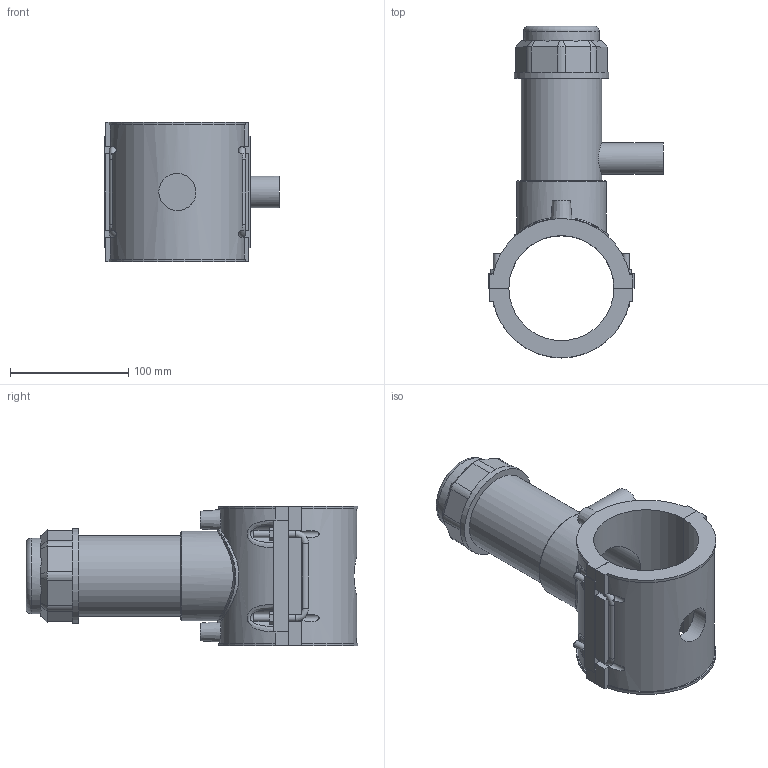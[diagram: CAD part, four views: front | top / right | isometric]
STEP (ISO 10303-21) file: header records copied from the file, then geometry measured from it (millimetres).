
FILE_DESCRIPTION(/* description */ ('PLASSON TAPPING SADDLE 3''''IPS x 1 3/4''''IPS'),/* implementation_level */ '2;1');
FILE_NAME(/* name */ 'C:\Dropbox\KIMPROJECTS-Inventor 2019\99-16-3568-Processing Inch\ASTM ElectroFusion 2021\5963B\5963BB03030007.ipt.stp',/* time_stamp */ '2021-08-30T09:55:07+03:00',/* author */ ('KIM'),/* organization */ (''),/* preprocessor_version */ 'ST-DEVELOPER v17.2',/* originating_system */ 'Autodesk Inventor 2019',/* authorisation */ '');
FILE_SCHEMA (('AUTOMOTIVE_DESIGN { 1 0 10303 214 3 1 1 }'));
Length unit declared in the file: millimetre
Products named in the file (1): 5963BB03030007
Bounding box: 147.56 x 280.2 x 118.11 mm (x, y, z)
Volume: 852607.7 mm3; surface area: 172986.4 mm2
Topology: 1 solids, 1 shells, 211 faces, 568 edges, 375 vertices
Faces by surface type: plane 128, cylinder 57, cone 15, bspline 6, torus 5
Full cylindrical faces by diameter (mm): 4 x2, 6 x7, 10 x2, 21.28 x1, 26.6 x1, 31.36 x1, 55.881 x1, 63.864 x1, 67.856 x1, 75.838 x1, 79.83 x1
Entity records: 8469 total; most frequent: CARTESIAN_POINT 3082, ORIENTED_EDGE 1158, DIRECTION 1055, EDGE_CURVE 579, VERTEX_POINT 375, AXIS2_PLACEMENT_3D 357, LINE 341, VECTOR 341
